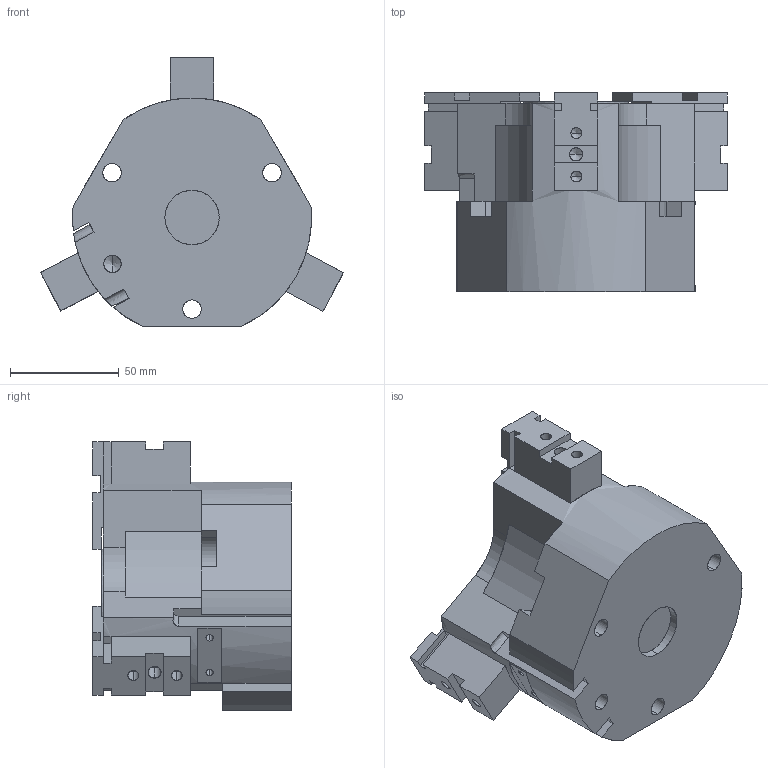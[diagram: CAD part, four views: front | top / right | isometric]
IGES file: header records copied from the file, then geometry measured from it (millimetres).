
Start section: SolidWorks IGES file using analytic representation for surfaces
Global section: file name: C:\Documents and Settings\SGA\Bureau\ROMAIN\OPE 110-3\OPE 110-3 ouvert.IGS; native system: SolidWorks 2010; preprocessor: SolidWorks 2010; author: SGA; date: 110928.095743; units: millimetre
Bounding box: 139.4 x 91.5 x 123.47 mm (x, y, z)
Surface area: 97118.4 mm2 (no closed solid volume)
Topology: 0 solids, 0 shells, 601 faces, 6796 edges, 6750 vertices
Faces by surface type: bspline 481, revolution 120
